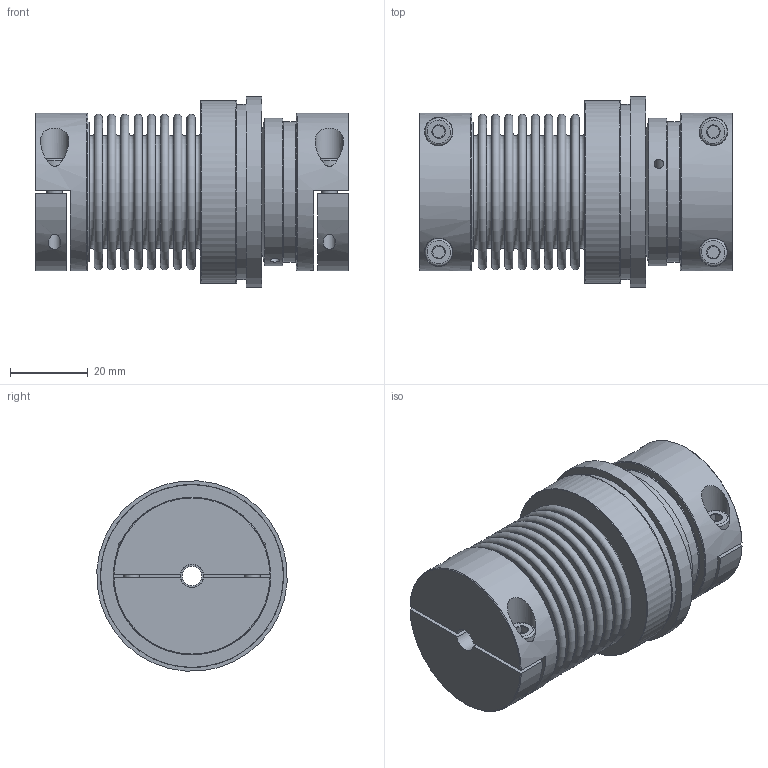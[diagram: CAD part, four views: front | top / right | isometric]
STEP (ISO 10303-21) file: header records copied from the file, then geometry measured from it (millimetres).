
FILE_DESCRIPTION( ( 'KBE1/14 - N7H8 - N14H7 - 98 Sh' ), '1' );
FILE_NAME( 'K:/Konstruktion/Fertigungszeichnungen/Überlastkupplung/KBK-B/KBK-BHH/10/KBK-BHH-10-81.stp', '14.12.2015', ( 'KBK-Antriebstechnik' ), ( 'KBK-Antriebstechnik' ), 'PSStep 16.0.42', 'Solid Edge St6', ' ' );
FILE_SCHEMA( ( 'AUTOMOTIVE_DESIGN { 1 0 10303 214 1 1 1 1 }' ) );
Length unit declared in the file: millimetre
Products named in the file (23): Stellring 10; L-P-10 Grundteil-oa2; L-P-10 Grundteil-oa1; Druckring 10; a_20; KB2H3-100-oa5; KNH-100-oa3; SN100-oa4; 61804-2RS1; _61804-2RS1_PART1; _61804-2RS1_PART2; _61804-2RS1_PART3; KBK-B-H-10-oa6; Flansch BK10; Assem1; KNH-100-oa0; ISO EN DIN 4762 M4x12; BL100_Standard_1
Assembly tree (38 placements, depth 4):
  Assem1
    Flansch BK10
    KNH-100-oa0
    KNH-100-oa0
    ISO EN DIN 4762 M4x12  x4
    BL100_Standard_1
    KBK-B-H-10-oa6
      Flansch BK10
      L-P-10 Grundteil-oa2
        L-P-10 Grundteil-oa1
      Stellring 10
        Stellring 10
      Druckring 10
        Druckring 10
      a_20
        a_20
      KB2H3-100-oa5
        KNH-100-oa3
        KNH-100-oa3
        SN100-oa4
      61804-2RS1
        _61804-2RS1_PART1
        _61804-2RS1_PART2
        _61804-2RS1_PART3  x13
Bounding box: 80.6 x 48.87 x 48.87 mm (x, y, z)
Volume: 77899.7 mm3; surface area: 70563.1 mm2
Topology: 31 solids, 31 shells, 354 faces, 674 edges, 421 vertices
Faces by surface type: plane 144, cylinder 88, torus 58, cone 51, sphere 13
Full cylindrical faces by diameter (mm): 2 x2, 2.459 x2, 3.242 x4, 3.5 x4, 4 x8, 4.2 x4, 5 x1, 6 x1, 7 x4, 7.3 x4, 16 x2, 19 x1, 20 x3, 23.85 x4, 24 x2, 25 x2, 26 x2, 28.25 x2, 29.4 x4, 29.993 x1, 32 x3, 34.343 x1, 35.143 x1, 35.2 x2, 36 x2, 36.3 x1, 38 x1, 40 x1, 40.5 x2, 45 x1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
Entity records: 8898 total; most frequent: CARTESIAN_POINT 1620, DIRECTION 1176, ORIENTED_EDGE 680, AXIS2_PLACEMENT_3D 555, EDGE_LOOP 490, FACE_OUTER_BOUND 372, EDGE_CURVE 340, VERTEX_POINT 315
